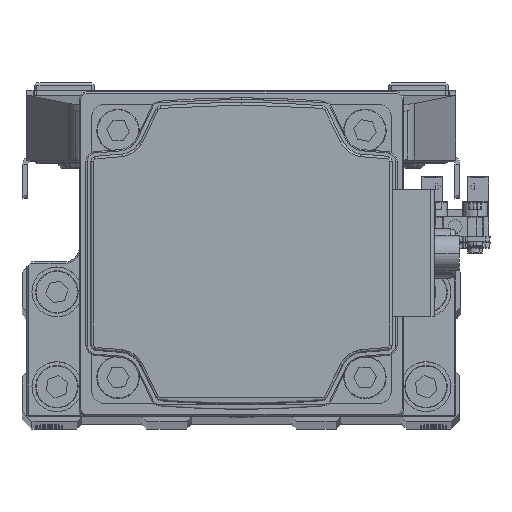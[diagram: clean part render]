
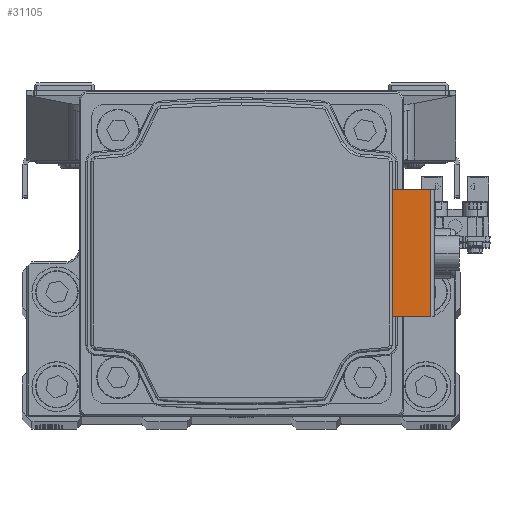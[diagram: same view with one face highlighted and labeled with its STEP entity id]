
A CAD part, top view. The second image highlights one B-rep face of the part: STEP entity #31105.
In plain terms, the highlighted planar face has unit normal (0, 0, 1) as drawn and (0, 0, -1) by its records, which use the part's own axes.
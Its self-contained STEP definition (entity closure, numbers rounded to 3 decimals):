
#855 = EDGE_CURVE ( 'NONE', #29092, #25889, #6674, .T. ) ;
#1608 = DIRECTION ( 'NONE',  ( 0., 1., 0. ) ) ;
#2147 = VECTOR ( 'NONE', #39994, 1000. ) ;
#2838 = DIRECTION ( 'NONE',  ( 0., 1., 0. ) ) ;
#4179 = CARTESIAN_POINT ( 'NONE',  ( -12.75, 30.2, -88.696 ) ) ;
#4887 = VERTEX_POINT ( 'NONE', #26399 ) ;
#6674 = LINE ( 'NONE', #21605, #31744 ) ;
#7262 = DIRECTION ( 'NONE',  ( -1., 0., 0. ) ) ;
#7489 = EDGE_LOOP ( 'NONE', ( #36454, #17981, #45596, #23136 ) ) ;
#10088 = LINE ( 'NONE', #25015, #2147 ) ;
#10949 = PLANE ( 'NONE',  #29546 ) ;
#11467 = VECTOR ( 'NONE', #2838, 1000. ) ;
#17981 = ORIENTED_EDGE ( 'NONE', *, *, #39331, .T. ) ;
#18419 = VERTEX_POINT ( 'NONE', #45141 ) ;
#20243 = LINE ( 'NONE', #35205, #38901 ) ;
#21455 = LINE ( 'NONE', #36435, #11467 ) ;
#21605 = CARTESIAN_POINT ( 'NONE',  ( 18.438, 30.2, -88.696 ) ) ;
#23136 = ORIENTED_EDGE ( 'NONE', *, *, #855, .F. ) ;
#25015 = CARTESIAN_POINT ( 'NONE',  ( 0., 37.9, -88.696 ) ) ;
#25875 = CARTESIAN_POINT ( 'NONE',  ( 0., 37.9, -88.696 ) ) ;
#25889 = VERTEX_POINT ( 'NONE', #30843 ) ;
#26399 = CARTESIAN_POINT ( 'NONE',  ( -12.75, 37.9, -88.696 ) ) ;
#29092 = VERTEX_POINT ( 'NONE', #4179 ) ;
#29546 = AXIS2_PLACEMENT_3D ( 'NONE', #25875, #40863, #7262 ) ;
#30843 = CARTESIAN_POINT ( 'NONE',  ( 12.75, 30.2, -88.696 ) ) ;
#31105 = ADVANCED_FACE ( 'NONE', ( #44542 ), #10949, .T. ) ;
#31744 = VECTOR ( 'NONE', #36591, 1000. ) ;
#35205 = CARTESIAN_POINT ( 'NONE',  ( -12.75, 37.9, -88.696 ) ) ;
#36435 = CARTESIAN_POINT ( 'NONE',  ( 12.75, 33.991, -88.696 ) ) ;
#36454 = ORIENTED_EDGE ( 'NONE', *, *, #37109, .T. ) ;
#36591 = DIRECTION ( 'NONE',  ( 1., 0., 0. ) ) ;
#37109 = EDGE_CURVE ( 'NONE', #29092, #4887, #20243, .T. ) ;
#38901 = VECTOR ( 'NONE', #1608, 1000. ) ;
#39331 = EDGE_CURVE ( 'NONE', #4887, #18419, #10088, .T. ) ;
#39994 = DIRECTION ( 'NONE',  ( 1., 0., 0. ) ) ;
#40863 = DIRECTION ( 'NONE',  ( 0., 0., -1. ) ) ;
#41829 = EDGE_CURVE ( 'NONE', #25889, #18419, #21455, .T. ) ;
#44542 = FACE_OUTER_BOUND ( 'NONE', #7489, .T. ) ;
#45141 = CARTESIAN_POINT ( 'NONE',  ( 12.75, 37.9, -88.696 ) ) ;
#45596 = ORIENTED_EDGE ( 'NONE', *, *, #41829, .F. ) ;
